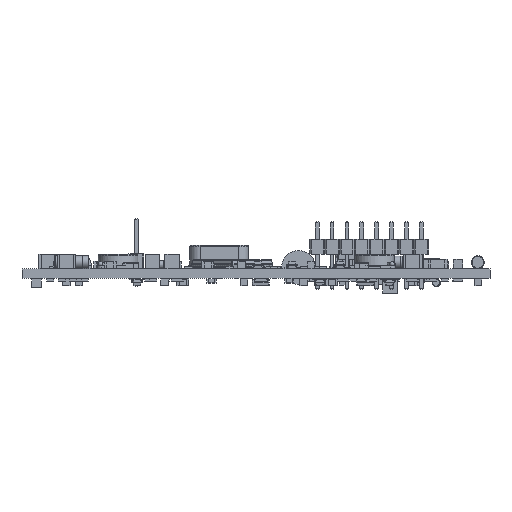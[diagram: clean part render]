
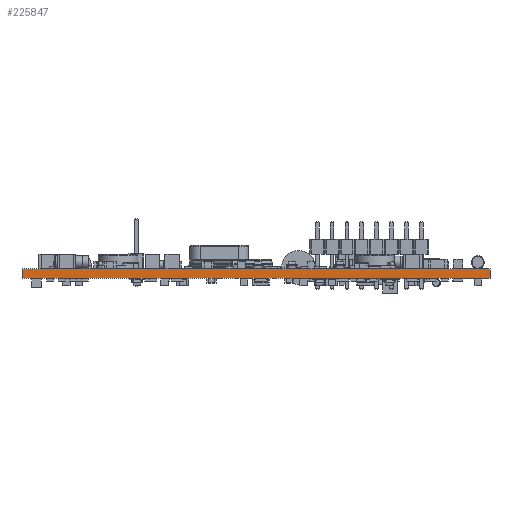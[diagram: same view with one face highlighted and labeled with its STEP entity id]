
A CAD part, left-side view. The second image highlights one B-rep face of the part: STEP entity #225847.
In plain terms, the highlighted planar face has unit normal (-1, 0, 0).
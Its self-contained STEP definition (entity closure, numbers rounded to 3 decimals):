
#225731 = EDGE_CURVE('',#225732,#225734,#225736,.T.);
#225732 = VERTEX_POINT('',#225733);
#225733 = CARTESIAN_POINT('',(-25.,40.,0.));
#225734 = VERTEX_POINT('',#225735);
#225735 = CARTESIAN_POINT('',(-25.,40.,1.6));
#225736 = SURFACE_CURVE('',#225737,(#225741,#225753),.PCURVE_S1.);
#225737 = LINE('',#225738,#225739);
#225738 = CARTESIAN_POINT('',(-25.,40.,0.));
#225739 = VECTOR('',#225740,1.);
#225740 = DIRECTION('',(0.,0.,1.));
#225741 = PCURVE('',#225742,#225747);
#225742 = PLANE('',#225743);
#225743 = AXIS2_PLACEMENT_3D('',#225744,#225745,#225746);
#225744 = CARTESIAN_POINT('',(-25.,40.,0.));
#225745 = DIRECTION('',(0.,1.,0.));
#225746 = DIRECTION('',(1.,0.,0.));
#225747 = DEFINITIONAL_REPRESENTATION('',(#225748),#225752);
#225748 = LINE('',#225749,#225750);
#225749 = CARTESIAN_POINT('',(0.,0.));
#225750 = VECTOR('',#225751,1.);
#225751 = DIRECTION('',(0.,-1.));
#225752 = ( GEOMETRIC_REPRESENTATION_CONTEXT(2) 
PARAMETRIC_REPRESENTATION_CONTEXT() REPRESENTATION_CONTEXT('2D SPACE',''
  ) );
#225753 = PCURVE('',#225754,#225759);
#225754 = PLANE('',#225755);
#225755 = AXIS2_PLACEMENT_3D('',#225756,#225757,#225758);
#225756 = CARTESIAN_POINT('',(-25.,-40.,0.));
#225757 = DIRECTION('',(-1.,0.,0.));
#225758 = DIRECTION('',(0.,1.,0.));
#225759 = DEFINITIONAL_REPRESENTATION('',(#225760),#225764);
#225760 = LINE('',#225761,#225762);
#225761 = CARTESIAN_POINT('',(80.,0.));
#225762 = VECTOR('',#225763,1.);
#225763 = DIRECTION('',(0.,-1.));
#225764 = ( GEOMETRIC_REPRESENTATION_CONTEXT(2) 
PARAMETRIC_REPRESENTATION_CONTEXT() REPRESENTATION_CONTEXT('2D SPACE',''
  ) );
#225782 = PLANE('',#225783);
#225783 = AXIS2_PLACEMENT_3D('',#225784,#225785,#225786);
#225784 = CARTESIAN_POINT('',(0.,-1.456,1.6));
#225785 = DIRECTION('',(0.,0.,-1.));
#225786 = DIRECTION('',(-1.,0.,0.));
#225836 = PLANE('',#225837);
#225837 = AXIS2_PLACEMENT_3D('',#225838,#225839,#225840);
#225838 = CARTESIAN_POINT('',(0.,-1.456,0.));
#225839 = DIRECTION('',(0.,0.,-1.));
#225840 = DIRECTION('',(-1.,0.,0.));
#225847 = ADVANCED_FACE('',(#225848),#225754,.T.);
#225848 = FACE_BOUND('',#225849,.T.);
#225849 = EDGE_LOOP('',(#225850,#225880,#225901,#225902));
#225850 = ORIENTED_EDGE('',*,*,#225851,.T.);
#225851 = EDGE_CURVE('',#225852,#225854,#225856,.T.);
#225852 = VERTEX_POINT('',#225853);
#225853 = CARTESIAN_POINT('',(-25.,-40.,0.));
#225854 = VERTEX_POINT('',#225855);
#225855 = CARTESIAN_POINT('',(-25.,-40.,1.6));
#225856 = SURFACE_CURVE('',#225857,(#225861,#225868),.PCURVE_S1.);
#225857 = LINE('',#225858,#225859);
#225858 = CARTESIAN_POINT('',(-25.,-40.,0.));
#225859 = VECTOR('',#225860,1.);
#225860 = DIRECTION('',(0.,0.,1.));
#225861 = PCURVE('',#225754,#225862);
#225862 = DEFINITIONAL_REPRESENTATION('',(#225863),#225867);
#225863 = LINE('',#225864,#225865);
#225864 = CARTESIAN_POINT('',(0.,0.));
#225865 = VECTOR('',#225866,1.);
#225866 = DIRECTION('',(0.,-1.));
#225867 = ( GEOMETRIC_REPRESENTATION_CONTEXT(2) 
PARAMETRIC_REPRESENTATION_CONTEXT() REPRESENTATION_CONTEXT('2D SPACE',''
  ) );
#225868 = PCURVE('',#225869,#225874);
#225869 = PLANE('',#225870);
#225870 = AXIS2_PLACEMENT_3D('',#225871,#225872,#225873);
#225871 = CARTESIAN_POINT('',(-4.,-40.,0.));
#225872 = DIRECTION('',(0.,-1.,0.));
#225873 = DIRECTION('',(-1.,0.,0.));
#225874 = DEFINITIONAL_REPRESENTATION('',(#225875),#225879);
#225875 = LINE('',#225876,#225877);
#225876 = CARTESIAN_POINT('',(21.,0.));
#225877 = VECTOR('',#225878,1.);
#225878 = DIRECTION('',(0.,-1.));
#225879 = ( GEOMETRIC_REPRESENTATION_CONTEXT(2) 
PARAMETRIC_REPRESENTATION_CONTEXT() REPRESENTATION_CONTEXT('2D SPACE',''
  ) );
#225880 = ORIENTED_EDGE('',*,*,#225881,.T.);
#225881 = EDGE_CURVE('',#225854,#225734,#225882,.T.);
#225882 = SURFACE_CURVE('',#225883,(#225887,#225894),.PCURVE_S1.);
#225883 = LINE('',#225884,#225885);
#225884 = CARTESIAN_POINT('',(-25.,-40.,1.6));
#225885 = VECTOR('',#225886,1.);
#225886 = DIRECTION('',(0.,1.,0.));
#225887 = PCURVE('',#225754,#225888);
#225888 = DEFINITIONAL_REPRESENTATION('',(#225889),#225893);
#225889 = LINE('',#225890,#225891);
#225890 = CARTESIAN_POINT('',(0.,-1.6));
#225891 = VECTOR('',#225892,1.);
#225892 = DIRECTION('',(1.,0.));
#225893 = ( GEOMETRIC_REPRESENTATION_CONTEXT(2) 
PARAMETRIC_REPRESENTATION_CONTEXT() REPRESENTATION_CONTEXT('2D SPACE',''
  ) );
#225894 = PCURVE('',#225782,#225895);
#225895 = DEFINITIONAL_REPRESENTATION('',(#225896),#225900);
#225896 = LINE('',#225897,#225898);
#225897 = CARTESIAN_POINT('',(25.,-38.544));
#225898 = VECTOR('',#225899,1.);
#225899 = DIRECTION('',(0.,1.));
#225900 = ( GEOMETRIC_REPRESENTATION_CONTEXT(2) 
PARAMETRIC_REPRESENTATION_CONTEXT() REPRESENTATION_CONTEXT('2D SPACE',''
  ) );
#225901 = ORIENTED_EDGE('',*,*,#225731,.F.);
#225902 = ORIENTED_EDGE('',*,*,#225903,.F.);
#225903 = EDGE_CURVE('',#225852,#225732,#225904,.T.);
#225904 = SURFACE_CURVE('',#225905,(#225909,#225916),.PCURVE_S1.);
#225905 = LINE('',#225906,#225907);
#225906 = CARTESIAN_POINT('',(-25.,-40.,0.));
#225907 = VECTOR('',#225908,1.);
#225908 = DIRECTION('',(0.,1.,0.));
#225909 = PCURVE('',#225754,#225910);
#225910 = DEFINITIONAL_REPRESENTATION('',(#225911),#225915);
#225911 = LINE('',#225912,#225913);
#225912 = CARTESIAN_POINT('',(0.,0.));
#225913 = VECTOR('',#225914,1.);
#225914 = DIRECTION('',(1.,0.));
#225915 = ( GEOMETRIC_REPRESENTATION_CONTEXT(2) 
PARAMETRIC_REPRESENTATION_CONTEXT() REPRESENTATION_CONTEXT('2D SPACE',''
  ) );
#225916 = PCURVE('',#225836,#225917);
#225917 = DEFINITIONAL_REPRESENTATION('',(#225918),#225922);
#225918 = LINE('',#225919,#225920);
#225919 = CARTESIAN_POINT('',(25.,-38.544));
#225920 = VECTOR('',#225921,1.);
#225921 = DIRECTION('',(0.,1.));
#225922 = ( GEOMETRIC_REPRESENTATION_CONTEXT(2) 
PARAMETRIC_REPRESENTATION_CONTEXT() REPRESENTATION_CONTEXT('2D SPACE',''
  ) );
